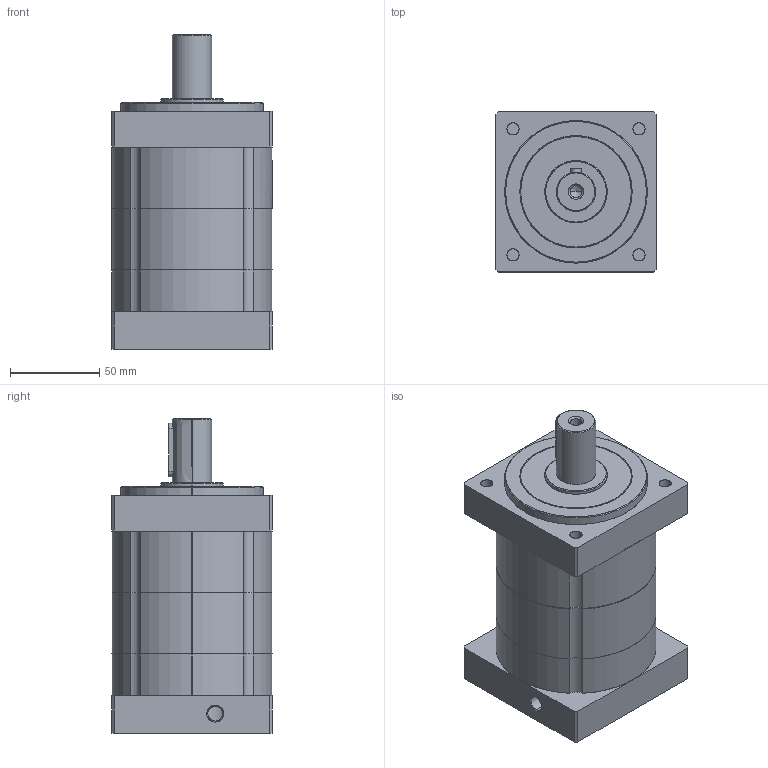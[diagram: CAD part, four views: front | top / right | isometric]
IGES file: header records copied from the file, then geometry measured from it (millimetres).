
Start section: SolidWorks IGES file using analytic representation for surfaces
Global section: file name: Z:\CAD Files\Gearboxes\S-Gearboxes\LX-090-005\LX-090-025-Rev0.IGS; native system: SolidWorks 2014; preprocessor: SolidWorks 2014; author: RENDER; date: 140711.165641; units: millimetre
Bounding box: 90 x 90 x 176.5 mm (x, y, z)
Surface area: 131084.6 mm2 (no closed solid volume)
Topology: 0 solids, 0 shells, 177 faces, 3922 edges, 3920 vertices
Faces by surface type: revolution 127, bspline 50
